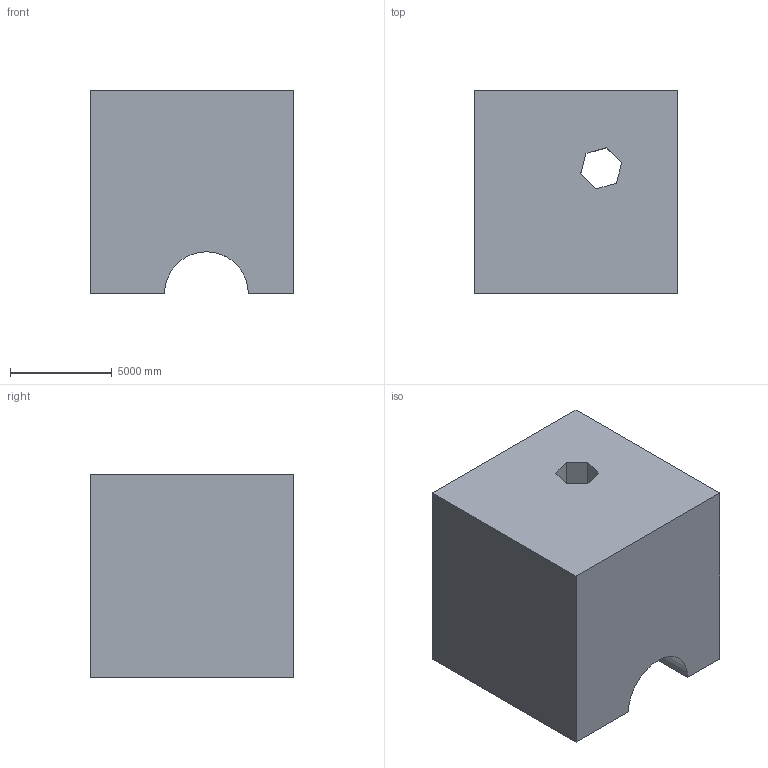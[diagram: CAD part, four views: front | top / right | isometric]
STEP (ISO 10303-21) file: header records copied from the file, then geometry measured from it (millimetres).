
FILE_DESCRIPTION (( 'STEP AP203' ), '1' );
FILE_NAME ('1143.STEP', '2022-08-18T12:55:52', ( 'user' ), ( '' ), 'SwSTEP 2.0', 'SolidWorks 2021', '' );
FILE_SCHEMA (( 'CONFIG_CONTROL_DESIGN' ));
Length unit declared in the file: centimetre
Products named in the file (1): 1143
Bounding box: 10000 x 10000 x 10000 mm (x, y, z)
Volume: 910208368752.4 mm3; surface area: 655440196.1 mm2
Topology: 1 solids, 1 shells, 14 faces, 36 edges, 24 vertices
Faces by surface type: plane 13, cylinder 1
Entity records: 503 total; most frequent: CARTESIAN_POINT 93, ORIENTED_EDGE 72, DIRECTION 62, EDGE_CURVE 36, LINE 28, VECTOR 28, VERTEX_POINT 24, AXIS2_PLACEMENT_3D 17
